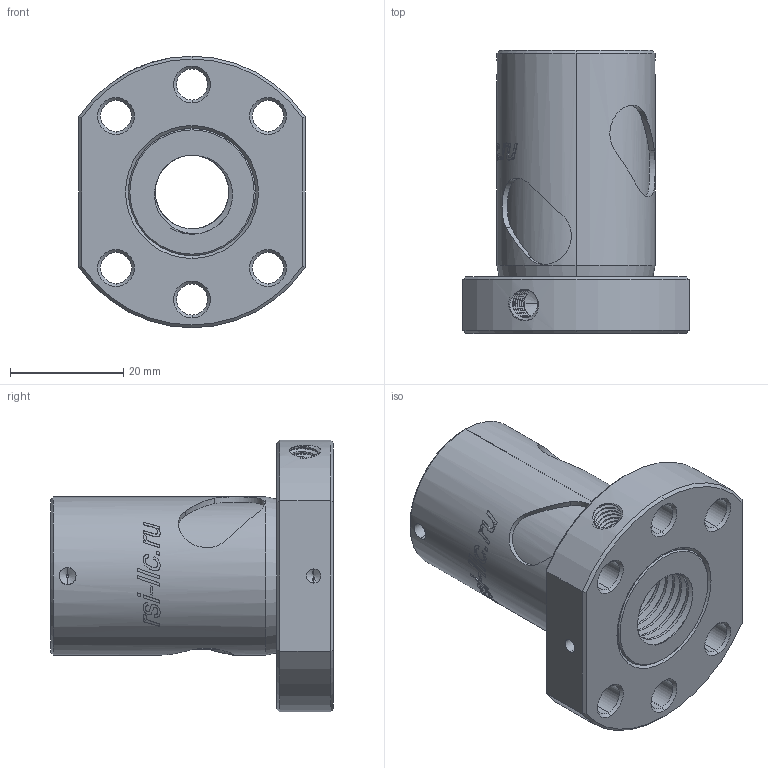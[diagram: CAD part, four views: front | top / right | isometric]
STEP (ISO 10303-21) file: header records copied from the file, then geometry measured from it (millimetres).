
FILE_DESCRIPTION (( 'STEP AP214' ), '1' );
FILE_NAME ('SFU 1605-4.STEP', '2020-10-15T09:55:47', ( '' ), ( '' ), 'SwSTEP 2.0', 'SolidWorks 2018', '' );
FILE_SCHEMA (( 'AUTOMOTIVE_DESIGN' ));
Length unit declared in the file: millimetre
Products named in the file (1): SFU 1605-4
Bounding box: 40 x 50 x 48 mm (x, y, z)
Volume: 31352 mm3; surface area: 19707.3 mm2
Topology: 2 solids, 2 shells, 297 faces, 768 edges, 485 vertices
Faces by surface type: cylinder 118, bspline 80, cone 56, plane 35, torus 8
Entity records: 32834 total; most frequent: CARTESIAN_POINT 25563, ORIENTED_EDGE 1516, DIRECTION 941, EDGE_CURVE 758, VERTEX_POINT 485, AXIS2_PLACEMENT_3D 386, EDGE_LOOP 337, B_SPLINE_CURVE_WITH_KNOTS 333
